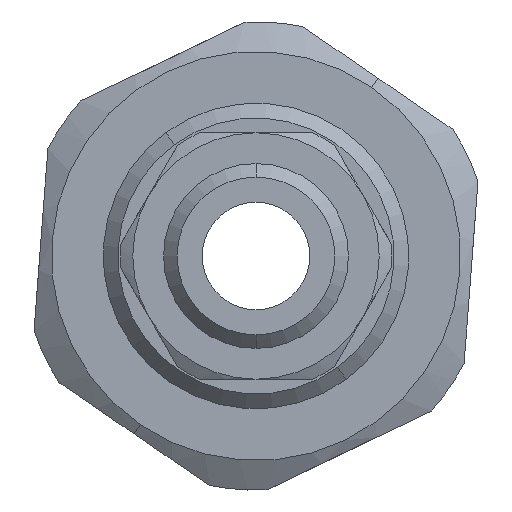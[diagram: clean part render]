
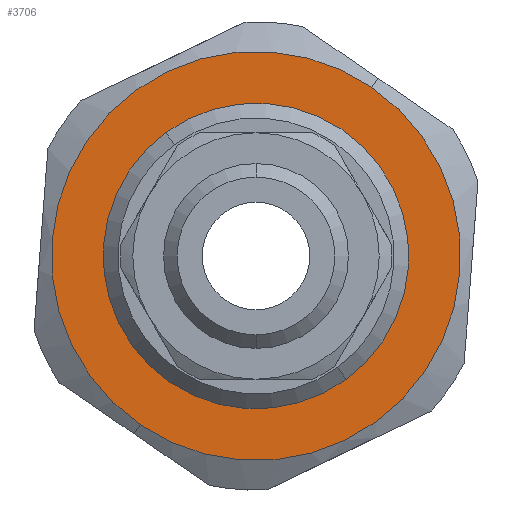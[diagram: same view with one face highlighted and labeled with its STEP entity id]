
A CAD part, left-side view. The second image highlights one B-rep face of the part: STEP entity #3706.
In plain terms, the highlighted planar face has unit normal (-1, 0, 0).
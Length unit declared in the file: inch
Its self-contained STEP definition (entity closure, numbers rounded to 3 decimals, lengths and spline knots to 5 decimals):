
#14 = CARTESIAN_POINT ( 'NONE',  ( 0.95346, -0.83096, 0.20899 ) ) ;
#15 = DIRECTION ( 'NONE',  ( -1., 0., 0. ) ) ;
#16 = DIRECTION ( 'NONE',  ( 0., 0.565, -0.825 ) ) ;
#22 = CARTESIAN_POINT ( 'NONE',  ( 0.95346, -0.83096, 0.20899 ) ) ;
#23 = DIRECTION ( 'NONE',  ( -1., 0., 0. ) ) ;
#24 = DIRECTION ( 'NONE',  ( 0., 0., 1. ) ) ;
#482 = CARTESIAN_POINT ( 'NONE',  ( 0.95346, -0.83096, 0.20899 ) ) ;
#483 = DIRECTION ( 'NONE',  ( -1., 0., 0. ) ) ;
#484 = DIRECTION ( 'NONE',  ( 0., 0.565, -0.825 ) ) ;
#491 = CARTESIAN_POINT ( 'NONE',  ( 0.95346, -0.83096, 0.20899 ) ) ;
#492 = DIRECTION ( 'NONE',  ( -1., 0., 0. ) ) ;
#493 = DIRECTION ( 'NONE',  ( 0., 0., 1. ) ) ;
#823 = FACE_BOUND ( 'NONE', #1366, .T. ) ;
#826 = CARTESIAN_POINT ( 'NONE',  ( 0.95346, -0.83096, 0.20899 ) ) ;
#830 = FACE_OUTER_BOUND ( 'NONE', #1464, .T. ) ;
#831 = PLANE ( 'NONE',  #3372 ) ;
#833 = DIRECTION ( 'NONE',  ( -1., 0., 0. ) ) ;
#834 = DIRECTION ( 'NONE',  ( 0., 0.565, -0.825 ) ) ;
#1366 = EDGE_LOOP ( 'NONE', ( #2357, #2873 ) ) ;
#1464 = EDGE_LOOP ( 'NONE', ( #2356, #2315 ) ) ;
#1684 = CARTESIAN_POINT ( 'NONE',  ( 0.95346, -0.5966, -0.1335 ) ) ;
#1690 = CARTESIAN_POINT ( 'NONE',  ( 0.95346, -1.01413, -0.04111 ) ) ;
#1727 = CARTESIAN_POINT ( 'NONE',  ( 0.95346, -1.06532, 0.55148 ) ) ;
#1786 = CARTESIAN_POINT ( 'NONE',  ( 0.95346, -0.64779, 0.45909 ) ) ;
#2315 = ORIENTED_EDGE ( 'NONE', *, *, #3664, .T. ) ;
#2356 = ORIENTED_EDGE ( 'NONE', *, *, #3259, .T. ) ;
#2357 = ORIENTED_EDGE ( 'NONE', *, *, #3262, .F. ) ;
#2390 = CIRCLE ( 'NONE', #2645, 0.415 ) ;
#2561 = CIRCLE ( 'NONE', #2622, 0.31 ) ;
#2622 = AXIS2_PLACEMENT_3D ( 'NONE', #22, #23, #24 ) ;
#2645 = AXIS2_PLACEMENT_3D ( 'NONE', #14, #15, #16 ) ;
#2873 = ORIENTED_EDGE ( 'NONE', *, *, #3666, .F. ) ;
#2904 = VERTEX_POINT ( 'NONE', #1727 ) ;
#2992 = VERTEX_POINT ( 'NONE', #1786 ) ;
#3127 = VERTEX_POINT ( 'NONE', #1690 ) ;
#3146 = VERTEX_POINT ( 'NONE', #1684 ) ;
#3259 = EDGE_CURVE ( 'NONE', #3146, #2904, #2390, .T. ) ;
#3262 = EDGE_CURVE ( 'NONE', #2992, #3127, #2561, .T. ) ;
#3372 = AXIS2_PLACEMENT_3D ( 'NONE', #826, #833, #834 ) ;
#3396 = CIRCLE ( 'NONE', #3451, 0.31 ) ;
#3421 = CIRCLE ( 'NONE', #3473, 0.415 ) ;
#3451 = AXIS2_PLACEMENT_3D ( 'NONE', #491, #492, #493 ) ;
#3473 = AXIS2_PLACEMENT_3D ( 'NONE', #482, #483, #484 ) ;
#3664 = EDGE_CURVE ( 'NONE', #2904, #3146, #3421, .T. ) ;
#3666 = EDGE_CURVE ( 'NONE', #3127, #2992, #3396, .T. ) ;
#3706 = ADVANCED_FACE ( 'NONE', ( #830, #823 ), #831, .T. ) ;
